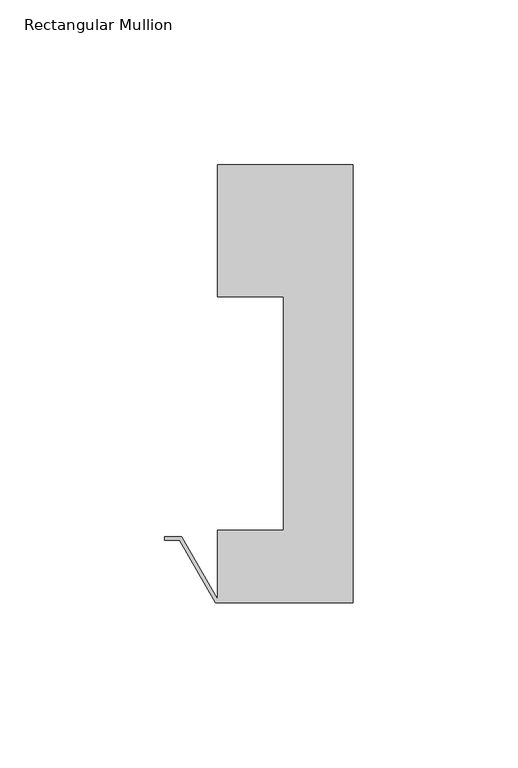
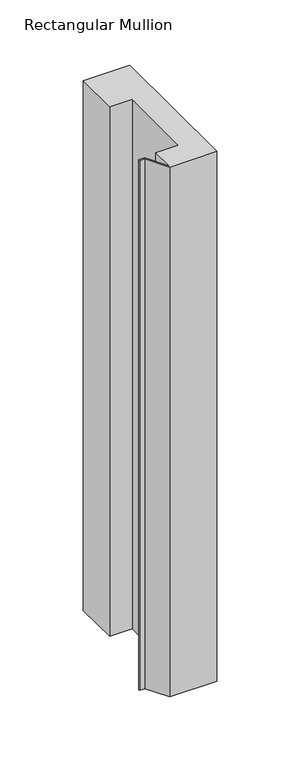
"""IFC4 building model written with IfcOpenShell, lengths in millimetres: member geometry, Rectangular Mullion : Danpal_TP_Top-Mullion."""

import ifcopenshell
import ifcopenshell.guid

model = None  # the IFC model being written
_history = None  # IfcOwnerHistory: only IFC2X3 demands one
_inside = {}  # id of a spatial element -> (the spatial element, [elements in it])
_under = {}  # id of a project, library or spatial element -> (it, [spatial elements below it])
_declared = {}  # id of a project -> (the project, [libraries it declares])
_typed = {}  # id of a type object -> (the type object, [elements of that type])
_made_of = {}  # id of a material, layer set ... -> (it, [elements and type objects made of it])


def new_model(schema):
    """Start an empty IFC model of exactly this schema.

    Asked for "IFC4X3", IfcOpenShell would pick the latest addendum, in which some entities
    have other attributes; the version numbers below select the first issue.
    IFC2X3 requires an IfcOwnerHistory on every rooted entity: one is made here for all.
    """
    global model, _history
    if schema == "IFC4X3":
        model = ifcopenshell.file(schema_version=(4, 3, 0, 0))
    else:
        model = ifcopenshell.file(schema=schema)
    _inside.clear()
    _under.clear()
    _declared.clear()
    _typed.clear()
    _made_of.clear()
    _history = None
    if model.schema == "IFC2X3":
        org = make("IfcOrganization", Name="unknown")
        user = make(
            "IfcPersonAndOrganization",
            ThePerson=make("IfcPerson", FamilyName="unknown"),
            TheOrganization=org,
        )
        app = make(
            "IfcApplication",
            ApplicationDeveloper=org,
            Version="unknown",
            ApplicationFullName="unknown",
            ApplicationIdentifier="unknown",
        )
        _history = make(
            "IfcOwnerHistory",
            OwningUser=user,
            OwningApplication=app,
            ChangeAction="ADDED",
            CreationDate=0,
        )
    return model


def make(cls, **values):
    """One entity of the class cls with the attributes given. An attribute that is None is left unset."""
    return model.create_entity(
        cls, **{name: value for name, value in values.items() if value is not None}
    )


def rooted(cls, **values):
    """An entity with a GlobalId (a new one), such as an element, a storey or a relation."""
    return make(cls, GlobalId=ifcopenshell.guid.new(), OwnerHistory=_history, **values)


def si_unit(unit_type, name, prefix=None):
    """IfcSIUnit, for example si_unit("LENGTHUNIT", "METRE", prefix="MILLI")."""
    return make("IfcSIUnit", UnitType=unit_type, Prefix=prefix, Name=name)


def assignment(units):
    """IfcUnitAssignment: the units of a project."""
    return None if units is None else make("IfcUnitAssignment", Units=units)


def point(xyz):
    """IfcCartesianPoint."""
    return None if xyz is None else make("IfcCartesianPoint", Coordinates=xyz)


def direction(xyz):
    """IfcDirection."""
    return None if xyz is None else make("IfcDirection", DirectionRatios=xyz)


def frame(location, z_axis=None, x_axis=None):
    """IfcAxis2Placement3D, a coordinate frame: its origin and axes. An axis left out is left unset."""
    return make(
        "IfcAxis2Placement3D",
        Location=point(location),
        Axis=direction(z_axis),
        RefDirection=direction(x_axis),
    )


def origin():
    """The frame at (0, 0, 0) with its axes left unset."""
    return frame((0.0, 0.0, 0.0))


def place(relative_to, where):
    """IfcLocalPlacement: puts the frame where relative to a parent placement (None: the world)."""
    return make(
        "IfcLocalPlacement", PlacementRelTo=relative_to, RelativePlacement=where
    )


def context(
    kind, dimensions, precision=None, world=None, true_north=None, identifier=None
):
    """IfcGeometricRepresentationContext, for example the 3D "Model" context."""
    return make(
        "IfcGeometricRepresentationContext",
        ContextIdentifier=identifier,
        ContextType=kind,
        CoordinateSpaceDimension=dimensions,
        Precision=precision,
        WorldCoordinateSystem=world,
        TrueNorth=true_north,
    )


def project(units=None, contexts=None):
    """IfcProject with its units and contexts."""
    return rooted(
        "IfcProject",
        Name="project",
        RepresentationContexts=contexts,
        UnitsInContext=assignment(units),
    )


def spatial(cls, under=None, at=None, **own):
    """A site, building, storey or space (cls), placed at a placement, below another one or the project."""
    s = rooted(cls, ObjectPlacement=at, **own)
    if under is not None:
        _under.setdefault(under.id(), (under, []))[1].append(s)
    return s


def polyline(points):
    """IfcPolyline through the points."""
    return make("IfcPolyline", Points=[point(p) for p in points])


def outline(outer, holes=None, kind="AREA"):
    """IfcArbitraryClosedProfileDef: a profile drawn as a closed curve; with holes, ...WithVoids."""
    if holes is None:
        return make("IfcArbitraryClosedProfileDef", ProfileType=kind, OuterCurve=outer)
    return make(
        "IfcArbitraryProfileDefWithVoids",
        ProfileType=kind,
        OuterCurve=outer,
        InnerCurves=holes,
    )


def extrude(swept, where, along, depth):
    """IfcExtrudedAreaSolid: the profile swept, set in the frame where, extruded along a direction by depth."""
    return make(
        "IfcExtrudedAreaSolid",
        SweptArea=swept,
        Position=where,
        ExtrudedDirection=direction(along),
        Depth=depth,
    )


def shape(context_of_items, identifier, shape_type, items):
    """IfcShapeRepresentation: the items that make up one representation, for example the "Body"."""
    return make(
        "IfcShapeRepresentation",
        ContextOfItems=context_of_items,
        RepresentationIdentifier=identifier,
        RepresentationType=shape_type,
        Items=items,
    )


def source(mapping_origin, context_of_items, identifier, shape_type, items):
    """IfcRepresentationMap: a shape defined once, which mapped items show again and again."""
    return make(
        "IfcRepresentationMap",
        MappingOrigin=mapping_origin,
        MappedRepresentation=shape(context_of_items, identifier, shape_type, items),
    )


def transform(
    local_origin,
    x_axis=None,
    y_axis=None,
    z_axis=None,
    scale=None,
    scale2=None,
    scale3=None,
    uniform=True,
):
    """IfcCartesianTransformationOperator3D, or its non-uniform kind. x_axis, y_axis, z_axis: its Axis1, 2, 3."""
    if uniform:
        return make(
            "IfcCartesianTransformationOperator3D",
            Axis1=direction(x_axis),
            Axis2=direction(y_axis),
            LocalOrigin=point(local_origin),
            Scale=scale,
            Axis3=direction(z_axis),
        )
    return make(
        "IfcCartesianTransformationOperator3DnonUniform",
        Axis1=direction(x_axis),
        Axis2=direction(y_axis),
        LocalOrigin=point(local_origin),
        Scale=scale,
        Axis3=direction(z_axis),
        Scale2=scale2,
        Scale3=scale3,
    )


def mapped(mapping_source, mapping_target):
    """IfcMappedItem: shows the shape of a source again, moved by a transform."""
    return make(
        "IfcMappedItem", MappingSource=mapping_source, MappingTarget=mapping_target
    )


def made_of(thing, what):
    """Note that an element or type object is made of a material, layer set ...; save() writes the relation."""
    if what is not None:
        _made_of.setdefault(what.id(), (what, []))[1].append(thing)
    return thing


def element(
    cls,
    number,
    at=None,
    inside=None,
    cuts=None,
    type_object=None,
    material=None,
    context=None,
    identifier="Body",
    shape_type=None,
    held_by="IfcProductDefinitionShape",
    body=None,
    shapes=None,
    **own,
):
    """One element of the class cls, such as IfcWall. Its Tag is "e" and its number.

    at: its placement. inside: the storey or other place that contains it. cuts: it is an
    opening in that element (IfcRelVoidsElement). A single representation is given by context,
    identifier, shape_type and body (its items); several are given by shapes. held_by: the class
    of the entity that holds the representations. save() writes the other relations.
    """
    e = rooted(cls, Tag="e%d" % number, ObjectPlacement=at, **own)
    if body is not None:
        shapes = [shape(context, identifier, shape_type, body)]
    if shapes is not None:
        e.Representation = make(held_by, Representations=shapes)
    if inside is not None:
        _inside.setdefault(inside.id(), (inside, []))[1].append(e)
    if cuts is not None:
        rooted(
            "IfcRelVoidsElement", RelatingBuildingElement=cuts, RelatedOpeningElement=e
        )
    if type_object is not None:
        _typed.setdefault(type_object.id(), (type_object, []))[1].append(e)
    return made_of(e, material)


def aggregate(whole, parts):
    """IfcRelAggregates: a whole, such as a stair, and the parts it consists of."""
    return rooted("IfcRelAggregates", RelatingObject=whole, RelatedObjects=parts)


def save(model, path):
    """Write the relations noted so far, then the file.

    IfcRelAggregates (storeys below a building ...), IfcRelContainedInSpatialStructure (elements
    in a storey), IfcRelDefinesByType, IfcRelAssociatesMaterial and IfcRelDeclares: one each for
    every whole, place, type object, material and project.
    """
    for whole, parts in _under.values():
        aggregate(whole, parts)
    for where, things in _inside.values():
        rooted(
            "IfcRelContainedInSpatialStructure",
            RelatedElements=things,
            RelatingStructure=where,
        )
    for kind, things in _typed.values():
        rooted("IfcRelDefinesByType", RelatedObjects=things, RelatingType=kind)
    for what, things in _made_of.values():
        rooted("IfcRelAssociatesMaterial", RelatedObjects=things, RelatingMaterial=what)
    for by, libraries in _declared.values():
        rooted("IfcRelDeclares", RelatingContext=by, RelatedDefinitions=libraries)
    model.write(path)


def rectangular_mullion_7f6d710d(model_context):
    return source(origin(), model_context, "Body", "SweptSolid", [
        extrude(outline(polyline([(0.0, -28.5050905), (-41.5773503, -28.5050905), (-52.5470054, -9.5050905), (-57.0367273, -9.5050905), (-57.0367273, -8.5050905), (-51.9696551, -8.5050905), (-41.0, -27.5050905), (-41.0, -6.5050905), (-21.0, -6.5050905), (-21.0, 64.1949095), (-41.0, 64.1949095), (-41.0, 104.1949095), (0.0, 104.1949095), (0.0, -28.5050905)])), frame((0.0, 0.0, -495.0), z_axis=(0.0, 0.0, 1.0), x_axis=(1.0, 0.0, 0.0)), (0.0, 0.0, 1.0), 495.0),
    ])


if __name__ == "__main__":
    model = new_model("IFC4")
    model_context = context("Model", 3, world=origin())
    ifc_project = project(units=[si_unit("LENGTHUNIT", "METRE", prefix="MILLI")], contexts=[model_context])
    site = spatial("IfcSite", under=ifc_project)
    building = spatial("IfcBuilding", under=site)
    placement = place(None, origin())
    rectangular_mullion_shape = rectangular_mullion_7f6d710d(model_context)
    element("IfcMember", 1, ObjectType="Rectangular Mullion : Danpal_TP_Top-Mullion", at=placement, inside=building, context=model_context, shape_type="MappedRepresentation", body=[
        mapped(rectangular_mullion_shape, transform((0.0, 0.0, 0.0), x_axis=(1.0, 0.0, 0.0), y_axis=(0.0, 1.0, 0.0), z_axis=(0.0, 0.0, 1.0))),
    ])
    save(model, "model.ifc")
